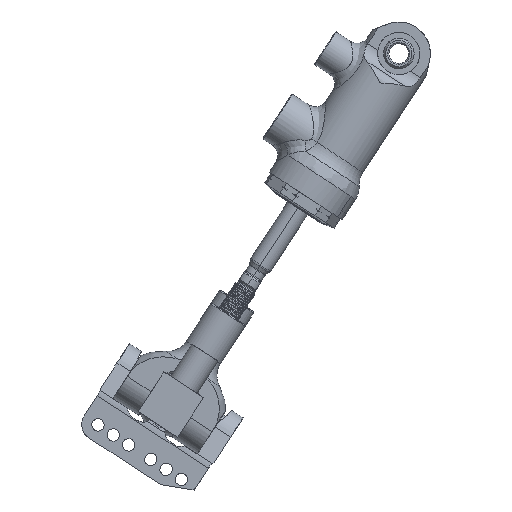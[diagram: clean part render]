
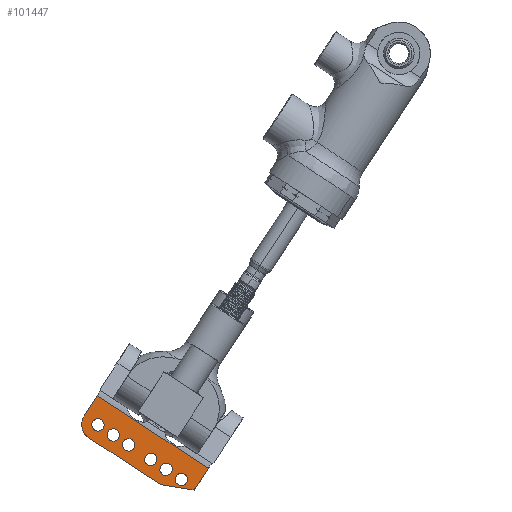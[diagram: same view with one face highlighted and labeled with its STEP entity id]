
A CAD part, left-side view. The second image highlights one B-rep face of the part: STEP entity #101447.
In plain terms, the highlighted planar face has unit normal (-1, 0, 0) as drawn and (1, 0, 0) by its records, which use the part's own axes.
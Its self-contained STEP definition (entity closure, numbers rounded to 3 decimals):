
#97838=CARTESIAN_POINT('Axis2P3D Location',(13.97,12.7,-7.62)) ;
#97842=CARTESIAN_POINT('Vertex',(13.97,12.7,-5.131)) ;
#97844=CARTESIAN_POINT('Vertex',(13.97,12.7,-10.109)) ;
#97873=CARTESIAN_POINT('Axis2P3D Location',(13.97,12.7,-7.62)) ;
#97953=CARTESIAN_POINT('Axis2P3D Location',(13.97,5.334,-7.62)) ;
#97957=CARTESIAN_POINT('Vertex',(13.97,5.334,-5.131)) ;
#97959=CARTESIAN_POINT('Vertex',(13.97,5.334,-10.109)) ;
#97988=CARTESIAN_POINT('Axis2P3D Location',(13.97,5.334,-7.62)) ;
#98068=CARTESIAN_POINT('Axis2P3D Location',(13.97,-5.334,-7.62)) ;
#98072=CARTESIAN_POINT('Vertex',(13.97,-5.334,-5.131)) ;
#98074=CARTESIAN_POINT('Vertex',(13.97,-5.334,-10.109)) ;
#98103=CARTESIAN_POINT('Axis2P3D Location',(13.97,-5.334,-7.62)) ;
#98189=CARTESIAN_POINT('Axis2P3D Location',(13.97,-12.7,-7.62)) ;
#98193=CARTESIAN_POINT('Vertex',(13.97,-12.7,-5.131)) ;
#98195=CARTESIAN_POINT('Vertex',(13.97,-12.7,-10.109)) ;
#98224=CARTESIAN_POINT('Axis2P3D Location',(13.97,-12.7,-7.62)) ;
#98310=CARTESIAN_POINT('Axis2P3D Location',(13.97,-20.066,-7.62)) ;
#98314=CARTESIAN_POINT('Vertex',(13.97,-20.066,-5.131)) ;
#98316=CARTESIAN_POINT('Vertex',(13.97,-20.066,-10.109)) ;
#98345=CARTESIAN_POINT('Axis2P3D Location',(13.97,-20.066,-7.62)) ;
#98437=CARTESIAN_POINT('Axis2P3D Location',(13.97,20.066,-7.62)) ;
#98441=CARTESIAN_POINT('Vertex',(13.97,20.066,-5.131)) ;
#98443=CARTESIAN_POINT('Vertex',(13.97,20.066,-10.109)) ;
#98478=CARTESIAN_POINT('Axis2P3D Location',(13.97,20.066,-7.62)) ;
#98548=CARTESIAN_POINT('Vertex',(13.97,-20.32,-13.97)) ;
#98552=CARTESIAN_POINT('Control Point',(13.97,-26.67,-7.62)) ;
#98553=CARTESIAN_POINT('Control Point',(13.97,-26.67,-9.615)) ;
#98554=CARTESIAN_POINT('Control Point',(13.97,-25.889,-11.612)) ;
#98555=CARTESIAN_POINT('Control Point',(13.97,-24.312,-13.189)) ;
#98556=CARTESIAN_POINT('Control Point',(13.97,-22.315,-13.97)) ;
#98557=CARTESIAN_POINT('Control Point',(13.97,-20.32,-13.97)) ;
#98558=CARTESIAN_POINT('Vertex',(13.97,-26.67,-7.62)) ;
#98601=CARTESIAN_POINT('Vertex',(13.97,26.67,2.051)) ;
#98604=CARTESIAN_POINT('Line Origine',(13.97,26.67,-2.785)) ;
#98608=CARTESIAN_POINT('Vertex',(13.97,26.67,-7.62)) ;
#98651=CARTESIAN_POINT('Line Origine',(13.97,-26.67,-2.785)) ;
#98655=CARTESIAN_POINT('Vertex',(13.97,-26.67,2.051)) ;
#100479=CARTESIAN_POINT('Line Origine',(13.97,-3.81,2.051)) ;
#101228=CARTESIAN_POINT('Axis2P3D Location',(13.97,20.32,-7.62)) ;
#101232=CARTESIAN_POINT('Vertex',(13.97,26.622,-8.398)) ;
#101271=CARTESIAN_POINT('Line Origine',(13.97,-3.107,-13.97)) ;
#101275=CARTESIAN_POINT('Vertex',(13.97,14.107,-13.97)) ;
#101404=CARTESIAN_POINT('Axis2P3D Location',(13.97,-31.115,-3.272)) ;
#101409=CARTESIAN_POINT('Line Origine',(13.97,20.365,-11.184)) ;
#98606=VECTOR('Line Direction',#98605,1.) ;
#98653=VECTOR('Line Direction',#98652,1.) ;
#100481=VECTOR('Line Direction',#100480,1.) ;
#101273=VECTOR('Line Direction',#101272,1.) ;
#101411=VECTOR('Line Direction',#101410,1.) ;
#97839=DIRECTION('Axis2P3D Direction',(1.,-0.,0.)) ;
#97874=DIRECTION('Axis2P3D Direction',(1.,-0.,0.)) ;
#97954=DIRECTION('Axis2P3D Direction',(1.,-0.,0.)) ;
#97989=DIRECTION('Axis2P3D Direction',(1.,-0.,0.)) ;
#98069=DIRECTION('Axis2P3D Direction',(1.,-0.,0.)) ;
#98104=DIRECTION('Axis2P3D Direction',(1.,-0.,0.)) ;
#98190=DIRECTION('Axis2P3D Direction',(1.,-0.,0.)) ;
#98225=DIRECTION('Axis2P3D Direction',(1.,-0.,0.)) ;
#98311=DIRECTION('Axis2P3D Direction',(1.,-0.,0.)) ;
#98346=DIRECTION('Axis2P3D Direction',(1.,-0.,0.)) ;
#98438=DIRECTION('Axis2P3D Direction',(1.,-0.,0.)) ;
#98479=DIRECTION('Axis2P3D Direction',(1.,-0.,0.)) ;
#98605=DIRECTION('Vector Direction',(0.,0.,1.)) ;
#98652=DIRECTION('Vector Direction',(0.,0.,-1.)) ;
#100480=DIRECTION('Vector Direction',(0.,1.,0.)) ;
#101229=DIRECTION('Axis2P3D Direction',(1.,0.,0.)) ;
#101272=DIRECTION('Vector Direction',(0.,1.,0.)) ;
#101405=DIRECTION('Axis2P3D Direction',(1.,-0.,0.)) ;
#101406=DIRECTION('Axis2P3D XDirection',(0.,0.,-1.)) ;
#101410=DIRECTION('Vector Direction',(0.,-0.914,-0.407)) ;
#97840=AXIS2_PLACEMENT_3D('Circle Axis2P3D',#97838,#97839,$) ;
#97875=AXIS2_PLACEMENT_3D('Circle Axis2P3D',#97873,#97874,$) ;
#97955=AXIS2_PLACEMENT_3D('Circle Axis2P3D',#97953,#97954,$) ;
#97990=AXIS2_PLACEMENT_3D('Circle Axis2P3D',#97988,#97989,$) ;
#98070=AXIS2_PLACEMENT_3D('Circle Axis2P3D',#98068,#98069,$) ;
#98105=AXIS2_PLACEMENT_3D('Circle Axis2P3D',#98103,#98104,$) ;
#98191=AXIS2_PLACEMENT_3D('Circle Axis2P3D',#98189,#98190,$) ;
#98226=AXIS2_PLACEMENT_3D('Circle Axis2P3D',#98224,#98225,$) ;
#98312=AXIS2_PLACEMENT_3D('Circle Axis2P3D',#98310,#98311,$) ;
#98347=AXIS2_PLACEMENT_3D('Circle Axis2P3D',#98345,#98346,$) ;
#98439=AXIS2_PLACEMENT_3D('Circle Axis2P3D',#98437,#98438,$) ;
#98480=AXIS2_PLACEMENT_3D('Circle Axis2P3D',#98478,#98479,$) ;
#101230=AXIS2_PLACEMENT_3D('Circle Axis2P3D',#101228,#101229,$) ;
#101407=AXIS2_PLACEMENT_3D('Plane Axis2P3D',#101404,#101405,#101406) ;
#98607=LINE('Line',#98604,#98606) ;
#98654=LINE('Line',#98651,#98653) ;
#100482=LINE('Line',#100479,#100481) ;
#101274=LINE('Line',#101271,#101273) ;
#101412=LINE('Line',#101409,#101411) ;
#97841=CIRCLE('generated circle',#97840,2.489) ;
#97876=CIRCLE('generated circle',#97875,2.489) ;
#97956=CIRCLE('generated circle',#97955,2.489) ;
#97991=CIRCLE('generated circle',#97990,2.489) ;
#98071=CIRCLE('generated circle',#98070,2.489) ;
#98106=CIRCLE('generated circle',#98105,2.489) ;
#98192=CIRCLE('generated circle',#98191,2.489) ;
#98227=CIRCLE('generated circle',#98226,2.489) ;
#98313=CIRCLE('generated circle',#98312,2.489) ;
#98348=CIRCLE('generated circle',#98347,2.489) ;
#98440=CIRCLE('generated circle',#98439,2.489) ;
#98481=CIRCLE('generated circle',#98480,2.489) ;
#101231=CIRCLE('generated circle',#101230,6.35) ;
#101408=PLANE('',#101407) ;
#101426=FACE_BOUND('',#101423,.T.) ;
#101430=FACE_BOUND('',#101427,.T.) ;
#101434=FACE_BOUND('',#101431,.T.) ;
#101438=FACE_BOUND('',#101435,.T.) ;
#101442=FACE_BOUND('',#101439,.T.) ;
#101446=FACE_BOUND('',#101443,.T.) ;
#97846=EDGE_CURVE('',#97843,#97845,#97841,.F.) ;
#97877=EDGE_CURVE('',#97845,#97843,#97876,.F.) ;
#97961=EDGE_CURVE('',#97958,#97960,#97956,.F.) ;
#97992=EDGE_CURVE('',#97960,#97958,#97991,.F.) ;
#98076=EDGE_CURVE('',#98073,#98075,#98071,.F.) ;
#98107=EDGE_CURVE('',#98075,#98073,#98106,.F.) ;
#98197=EDGE_CURVE('',#98194,#98196,#98192,.F.) ;
#98228=EDGE_CURVE('',#98196,#98194,#98227,.F.) ;
#98318=EDGE_CURVE('',#98315,#98317,#98313,.F.) ;
#98349=EDGE_CURVE('',#98317,#98315,#98348,.F.) ;
#98445=EDGE_CURVE('',#98442,#98444,#98440,.F.) ;
#98482=EDGE_CURVE('',#98444,#98442,#98481,.F.) ;
#98560=EDGE_CURVE('',#98559,#98549,#98551,.T.) ;
#98610=EDGE_CURVE('',#98609,#98602,#98607,.T.) ;
#98657=EDGE_CURVE('',#98656,#98559,#98654,.T.) ;
#100483=EDGE_CURVE('',#98602,#98656,#100482,.F.) ;
#101234=EDGE_CURVE('',#101233,#98609,#101231,.T.) ;
#101277=EDGE_CURVE('',#98549,#101276,#101274,.T.) ;
#101413=EDGE_CURVE('',#101233,#101276,#101412,.T.) ;
#101415=ORIENTED_EDGE('',*,*,#101234,.T.) ;
#101416=ORIENTED_EDGE('',*,*,#98610,.T.) ;
#101417=ORIENTED_EDGE('',*,*,#100483,.T.) ;
#101418=ORIENTED_EDGE('',*,*,#98657,.T.) ;
#101419=ORIENTED_EDGE('',*,*,#98560,.T.) ;
#101420=ORIENTED_EDGE('',*,*,#101277,.T.) ;
#101421=ORIENTED_EDGE('',*,*,#101413,.F.) ;
#101424=ORIENTED_EDGE('',*,*,#97877,.T.) ;
#101425=ORIENTED_EDGE('',*,*,#97846,.T.) ;
#101428=ORIENTED_EDGE('',*,*,#97992,.T.) ;
#101429=ORIENTED_EDGE('',*,*,#97961,.T.) ;
#101432=ORIENTED_EDGE('',*,*,#98107,.T.) ;
#101433=ORIENTED_EDGE('',*,*,#98076,.T.) ;
#101436=ORIENTED_EDGE('',*,*,#98228,.T.) ;
#101437=ORIENTED_EDGE('',*,*,#98197,.T.) ;
#101440=ORIENTED_EDGE('',*,*,#98349,.T.) ;
#101441=ORIENTED_EDGE('',*,*,#98318,.T.) ;
#101444=ORIENTED_EDGE('',*,*,#98482,.T.) ;
#101445=ORIENTED_EDGE('',*,*,#98445,.T.) ;
#101414=EDGE_LOOP('',(#101415,#101416,#101417,#101418,#101419,#101420,#101421)) ;
#101423=EDGE_LOOP('',(#101424,#101425)) ;
#101427=EDGE_LOOP('',(#101428,#101429)) ;
#101431=EDGE_LOOP('',(#101432,#101433)) ;
#101435=EDGE_LOOP('',(#101436,#101437)) ;
#101439=EDGE_LOOP('',(#101440,#101441)) ;
#101443=EDGE_LOOP('',(#101444,#101445)) ;
#97843=VERTEX_POINT('',#97842) ;
#97845=VERTEX_POINT('',#97844) ;
#97958=VERTEX_POINT('',#97957) ;
#97960=VERTEX_POINT('',#97959) ;
#98073=VERTEX_POINT('',#98072) ;
#98075=VERTEX_POINT('',#98074) ;
#98194=VERTEX_POINT('',#98193) ;
#98196=VERTEX_POINT('',#98195) ;
#98315=VERTEX_POINT('',#98314) ;
#98317=VERTEX_POINT('',#98316) ;
#98442=VERTEX_POINT('',#98441) ;
#98444=VERTEX_POINT('',#98443) ;
#98549=VERTEX_POINT('',#98548) ;
#98559=VERTEX_POINT('',#98558) ;
#98602=VERTEX_POINT('',#98601) ;
#98609=VERTEX_POINT('',#98608) ;
#98656=VERTEX_POINT('',#98655) ;
#101233=VERTEX_POINT('',#101232) ;
#101276=VERTEX_POINT('',#101275) ;
#101447=ADVANCED_FACE('Brep With Voids',(#101422,#101426,#101430,#101434,#101438,#101442,#101446),#101408,.T.) ;
#98551=B_SPLINE_CURVE_WITH_KNOTS('',5,(#98552,#98553,#98554,#98555,#98556,#98557),.UNSPECIFIED.,.F.,.U.,(6,6),(-4.987,4.987),.UNSPECIFIED.) ;
#101422=FACE_OUTER_BOUND('',#101414,.T.) ;
